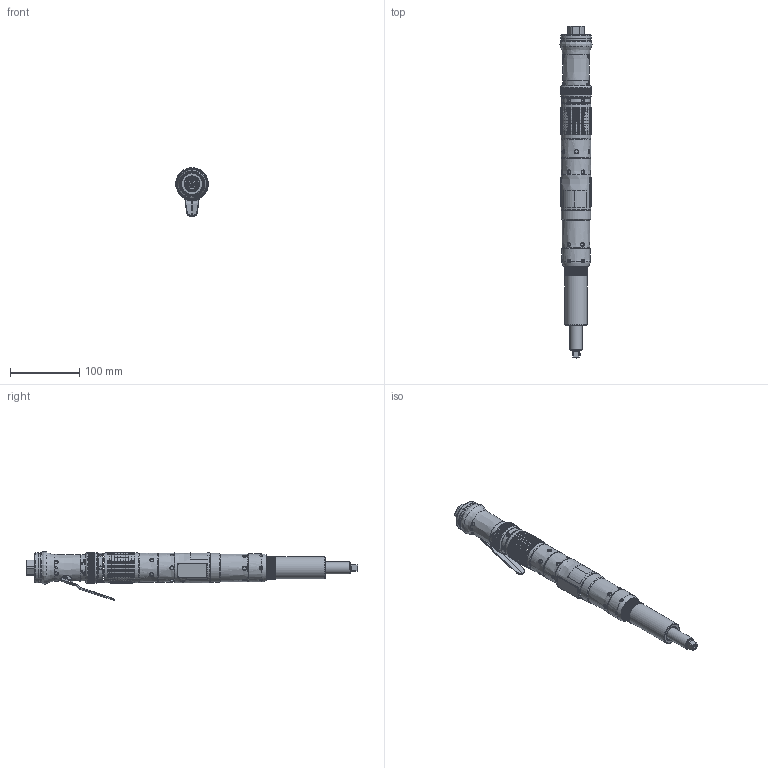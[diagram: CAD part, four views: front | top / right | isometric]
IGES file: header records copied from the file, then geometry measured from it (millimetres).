
Global section: file name: C:\Documents and Settings\rogupta\Desktop\siji2\QA6 STRAIGHT SHUTOFF\16595084\16595084.igs; native system: Unigraphics Version X V2.0; preprocessor: Unigraphics NX IGES V2.0; date: 20070510.194108; units: inch
Bounding box: 46.21 x 477.91 x 70.45 mm (x, y, z)
Surface area: 85942.4 mm2 (no closed solid volume)
Topology: 0 solids, 0 shells, 1067 faces, 13440 edges, 13279 vertices
Faces by surface type: revolution 582, extrusion 455, bspline 28, offset 2
